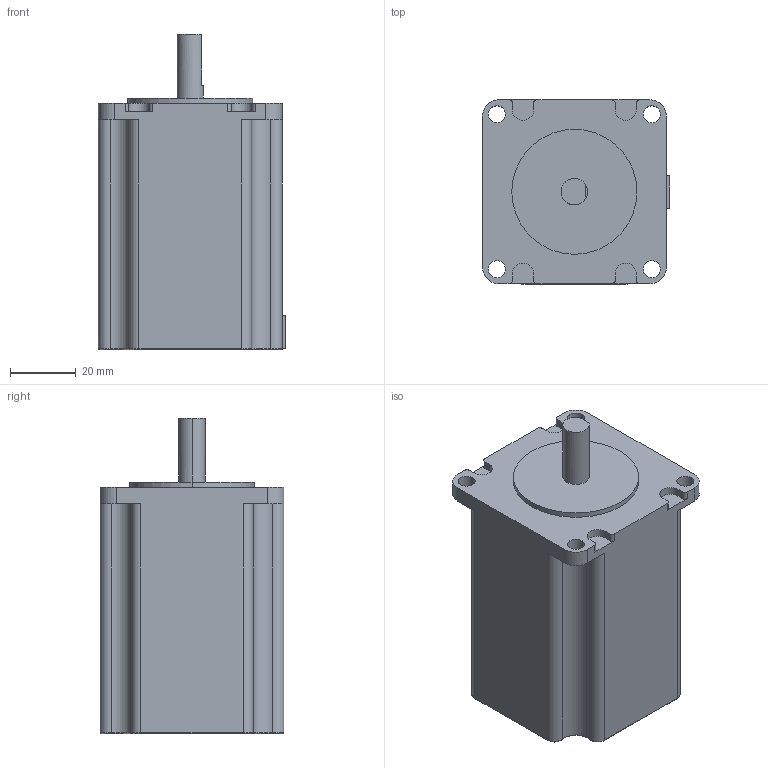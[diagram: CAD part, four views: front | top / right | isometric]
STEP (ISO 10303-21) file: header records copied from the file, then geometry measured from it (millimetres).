
FILE_DESCRIPTION((''),'2;1');
FILE_NAME('QL57HD76-0384A','2022-03-23T16:08:18',('qingl'),(''),'CREO PARAMETRIC BY PTC INC, 2019224','CREO PARAMETRIC BY PTC INC, 2019224','');
FILE_SCHEMA(('CONFIG_CONTROL_DESIGN'));
Length unit declared in the file: millimetre
Products named in the file (1): QL57HD76-0384A
Bounding box: 57 x 56 x 96 mm (x, y, z)
Volume: 212105.1 mm3; surface area: 23229.1 mm2
Topology: 1 solids, 2 shells, 223 faces, 630 edges, 420 vertices
Faces by surface type: cylinder 160, plane 43, torus 12, bspline 8
Entity records: 10657 total; most frequent: CARTESIAN_POINT 5084, ORIENTED_EDGE 1260, DIRECTION 1022, EDGE_CURVE 630, VERTEX_POINT 420, AXIS2_PLACEMENT_3D 389, VECTOR 244, LINE 244
